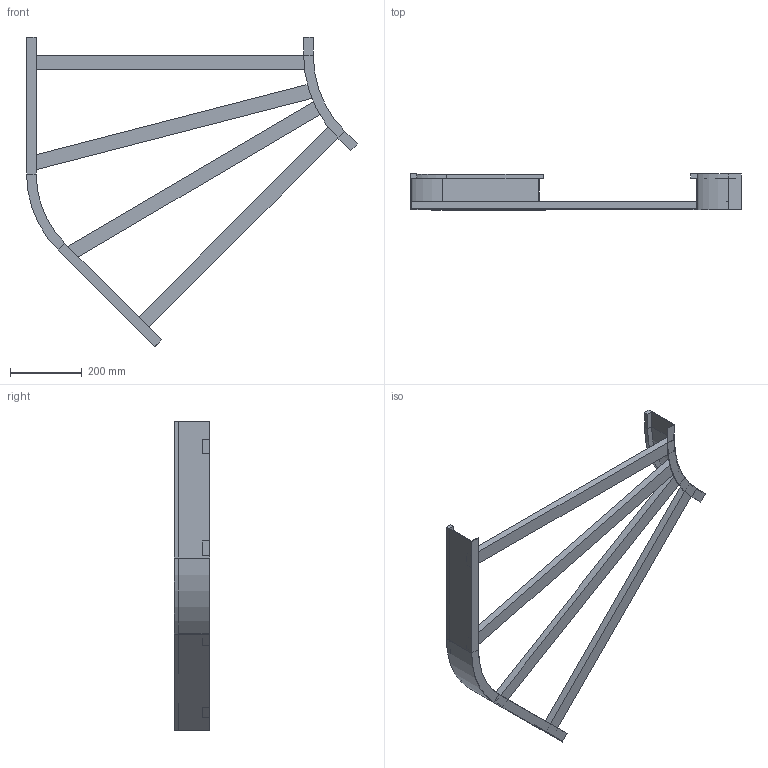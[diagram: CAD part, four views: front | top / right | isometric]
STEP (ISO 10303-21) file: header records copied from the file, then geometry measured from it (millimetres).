
FILE_DESCRIPTION (( 'STEP AP214' ), '1' );
FILE_NAME ('B2_11B3D800.step', '2025-02-21T15:13:13', ( '' ), ( '' ), 'SwSTEP 2.0', 'SolidWorks 2023', '' );
FILE_SCHEMA (( 'AUTOMOTIVE_DESIGN' ));
Length unit declared in the file: millimetre
Products named in the file (5): TRAVERSINO_900_SCANTONATO; B2_11B3D800; B2_LONGH.INTERNO 45°_H100_R300; TRAVERSINO_800; B2_LONGH.ESTERNO 45°_H100_R300+800
Assembly tree (6 placements, depth 2):
  B2_11B3D800
    B2_LONGH.INTERNO 45°_H100_R300
    B2_LONGH.ESTERNO 45°_H100_R300+800
    TRAVERSINO_800  x2
    TRAVERSINO_900_SCANTONATO  x2
Bounding box: 923.22 x 100 x 863.17 mm (x, y, z)
Volume: 3235079.4 mm3; surface area: 785001.1 mm2
Topology: 6 solids, 6 shells, 76 faces, 160 edges, 96 vertices
Faces by surface type: plane 68, cylinder 8
Entity records: 1830 total; most frequent: DIRECTION 298, CARTESIAN_POINT 289, ORIENTED_EDGE 272, EDGE_CURVE 136, LINE 120, VECTOR 120, AXIS2_PLACEMENT_3D 89, VERTEX_POINT 80
